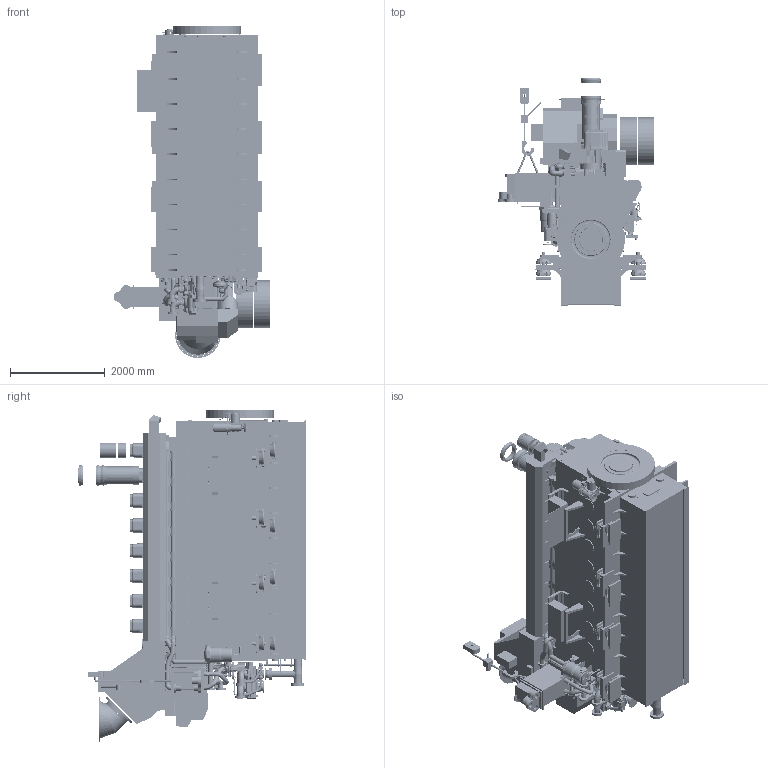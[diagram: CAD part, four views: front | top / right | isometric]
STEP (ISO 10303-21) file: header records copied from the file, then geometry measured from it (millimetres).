
FILE_DESCRIPTION((''),'2;1');
FILE_NAME('8M32E_CFWS_STP_ASM','2015-09-23T',('petera8'),('Caterpillar Motoren GmbH & Co.KG'),'PRO/ENGINEER BY PARAMETRIC TECHNOLOGY CORPORATION, 2014200','PRO/ENGINEER BY PARAMETRIC TECHNOLOGY CORPORATION, 2014200','');
FILE_SCHEMA(('CONFIG_CONTROL_DESIGN'));
Products named in the file (7): 8M32E_CFWS_STP_ENGINE_P02; 8M32E_CFWS_STP_WET_SUMP_P02; 8M32E_CFWS_STP_WET_SU_ELA_P02; 8M32E_CFWS_STP_DRY_SUMP_P02; 8M32E_CFWS_STP_RESI_MOUNT_P02; 8M32E_CFWS_STP_REMOV_SPAC_P03; 8M32E_CFWS_STP_ASM
Assembly tree (6 placements, depth 2):
  8M32E_CFWS_STP_ASM
    8M32E_CFWS_STP_ENGINE_P02
    8M32E_CFWS_STP_WET_SUMP_P02
    8M32E_CFWS_STP_WET_SU_ELA_P02
    8M32E_CFWS_STP_DRY_SUMP_P02
    8M32E_CFWS_STP_RESI_MOUNT_P02
    8M32E_CFWS_STP_REMOV_SPAC_P03
Bounding box: 3308 x 4797 x 7012.27 mm (x, y, z)
Surface area: 256468960.9 mm2 (no closed solid volume)
Topology: 0 solids, 671 shells, 6381 faces, 25970 edges, 19730 vertices
Faces by surface type: plane 3153, cylinder 2266, bspline 419, torus 225, cone 171, extrusion 95, sphere 44, revolution 8
Entity records: 374809 total; most frequent: CARTESIAN_POINT 127114, DIRECTION 44403, ORIENTED_EDGE 37917, EDGE_CURVE 25925, VERTEX_POINT 19730, AXIS2_PLACEMENT_3D 14972, VECTOR 14451, LINE 14356
